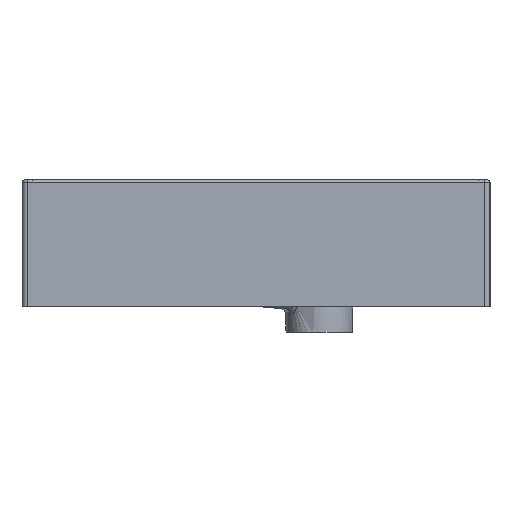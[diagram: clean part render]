
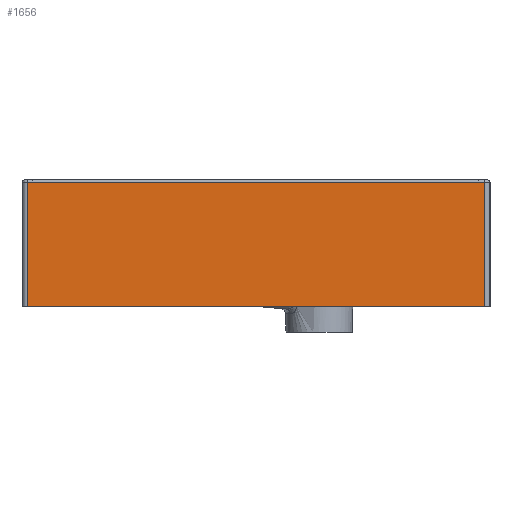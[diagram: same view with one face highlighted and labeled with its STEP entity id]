
A CAD part, left-side view. The second image highlights one B-rep face of the part: STEP entity #1656.
In plain terms, the highlighted planar face has unit normal (-1, 0, 0).
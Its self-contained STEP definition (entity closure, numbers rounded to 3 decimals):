
#1104=B_SPLINE_CURVE_WITH_KNOTS('',1,(#17188,#17189),.UNSPECIFIED.,.F.,
 .F.,(2,2),(0.,1.),.UNSPECIFIED.);
#1105=B_SPLINE_CURVE_WITH_KNOTS('',1,(#17190,#17191),.UNSPECIFIED.,.F.,
 .F.,(2,2),(0.,1.),.UNSPECIFIED.);
#1106=B_SPLINE_CURVE_WITH_KNOTS('',1,(#17192,#17193),.UNSPECIFIED.,.F.,
 .F.,(2,2),(-1.,0.),.UNSPECIFIED.);
#1107=B_SPLINE_CURVE_WITH_KNOTS('',1,(#17194,#17195),.UNSPECIFIED.,.F.,
 .F.,(2,2),(-1.,0.),.UNSPECIFIED.);
#1656=ADVANCED_FACE('',(#1987),#7540,.T.);
#1987=FACE_OUTER_BOUND('',#2322,.T.);
#2322=EDGE_LOOP('',(#2807,#2808,#2809,#2810));
#2807=ORIENTED_EDGE('',*,*,#4112,.T.);
#2808=ORIENTED_EDGE('',*,*,#4113,.T.);
#2809=ORIENTED_EDGE('',*,*,#4114,.T.);
#2810=ORIENTED_EDGE('',*,*,#4115,.T.);
#4112=EDGE_CURVE('',#6399,#6400,#1104,.T.);
#4113=EDGE_CURVE('',#6400,#6401,#1105,.T.);
#4114=EDGE_CURVE('',#6401,#6402,#1106,.T.);
#4115=EDGE_CURVE('',#6402,#6399,#1107,.T.);
#6399=VERTEX_POINT('',#17184);
#6400=VERTEX_POINT('',#17185);
#6401=VERTEX_POINT('',#17186);
#6402=VERTEX_POINT('',#17187);
#7540=PLANE('',#7914);
#7914=AXIS2_PLACEMENT_3D('',#17183,#8648,$);
#8648=DIRECTION('',(-1.,0.,0.));
#17183=CARTESIAN_POINT('',(-302.5,150.,-112.));
#17184=CARTESIAN_POINT('',(-302.5,150.,-112.));
#17185=CARTESIAN_POINT('',(-302.5,-300.,-112.));
#17186=CARTESIAN_POINT('',(-302.5,-300.,10.));
#17187=CARTESIAN_POINT('',(-302.5,150.,10.));
#17188=CARTESIAN_POINT('',(-302.5,150.,-112.));
#17189=CARTESIAN_POINT('',(-302.5,-300.,-112.));
#17190=CARTESIAN_POINT('',(-302.5,-300.,-112.));
#17191=CARTESIAN_POINT('',(-302.5,-300.,10.));
#17192=CARTESIAN_POINT('',(-302.5,-300.,10.));
#17193=CARTESIAN_POINT('',(-302.5,150.,10.));
#17194=CARTESIAN_POINT('',(-302.5,150.,10.));
#17195=CARTESIAN_POINT('',(-302.5,150.,-112.));
